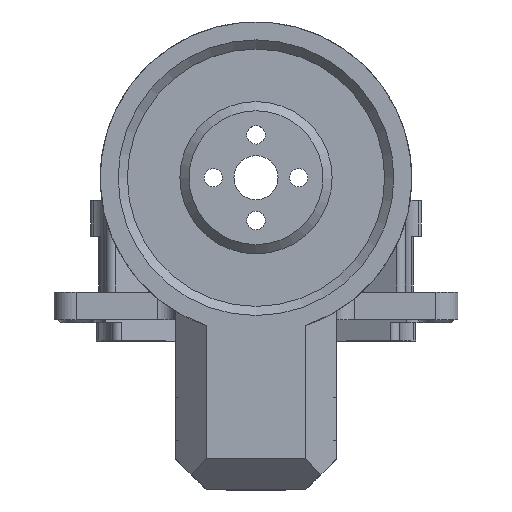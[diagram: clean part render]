
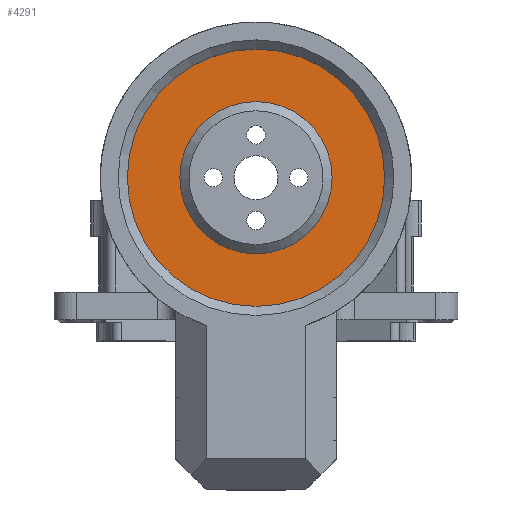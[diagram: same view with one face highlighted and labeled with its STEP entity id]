
A CAD part, top view. The second image highlights one B-rep face of the part: STEP entity #4291.
In plain terms, the highlighted planar face has unit normal (0, 0, 1).
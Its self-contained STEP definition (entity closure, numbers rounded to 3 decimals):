
#76=FACE_BOUND('',#643,.T.);
#147=PLANE('',#4668);
#408=FACE_OUTER_BOUND('',#642,.T.);
#642=EDGE_LOOP('',(#3541));
#643=EDGE_LOOP('',(#3542));
#1735=CIRCLE('',#4658,21.05);
#1739=CIRCLE('',#4665,12.45);
#2101=VERTEX_POINT('',#7077);
#2106=VERTEX_POINT('',#7093);
#2639=EDGE_CURVE('',#2101,#2101,#1735,.T.);
#2647=EDGE_CURVE('',#2106,#2106,#1739,.T.);
#3541=ORIENTED_EDGE('',*,*,#2639,.F.);
#3542=ORIENTED_EDGE('',*,*,#2647,.F.);
#4291=ADVANCED_FACE('',(#408,#76),#147,.T.);
#4658=AXIS2_PLACEMENT_3D('',#7079,#5583,#5584);
#4665=AXIS2_PLACEMENT_3D('',#7095,#5601,#5602);
#4668=AXIS2_PLACEMENT_3D('',#7099,#5607,#5608);
#5583=DIRECTION('center_axis',(0.,0.,-1.));
#5584=DIRECTION('ref_axis',(-1.,0.,0.));
#5601=DIRECTION('center_axis',(0.,0.,1.));
#5602=DIRECTION('ref_axis',(-1.,0.,0.));
#5607=DIRECTION('center_axis',(0.,0.,1.));
#5608=DIRECTION('ref_axis',(-1.,0.,0.));
#7077=CARTESIAN_POINT('',(21.05,2.1,73.736));
#7079=CARTESIAN_POINT('Origin',(0.,2.1,73.736));
#7093=CARTESIAN_POINT('',(12.45,2.1,73.736));
#7095=CARTESIAN_POINT('Origin',(0.,2.1,73.736));
#7099=CARTESIAN_POINT('Origin',(0.,2.1,73.736));
